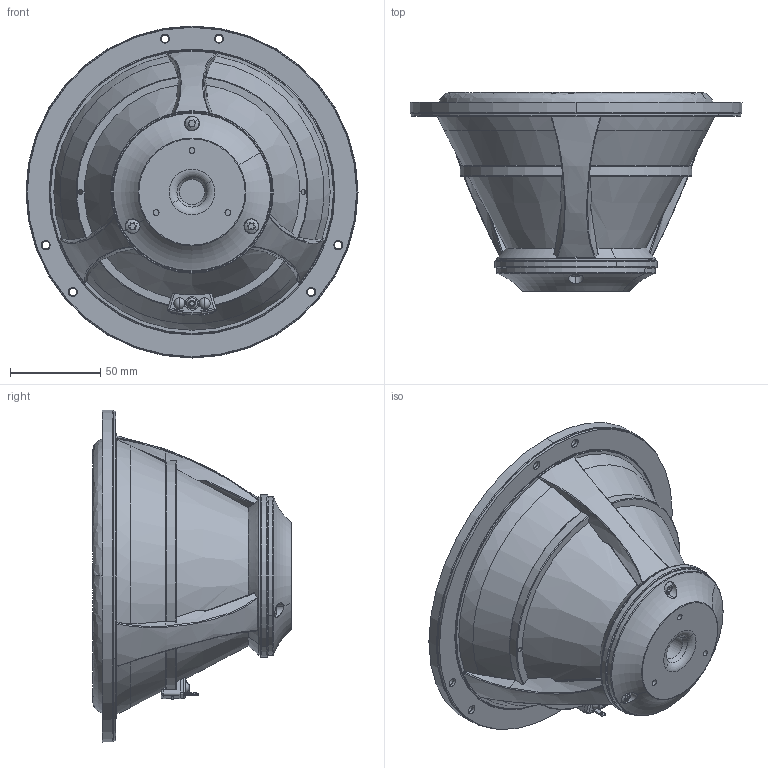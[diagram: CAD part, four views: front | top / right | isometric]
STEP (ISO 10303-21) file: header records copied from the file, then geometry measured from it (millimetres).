
FILE_DESCRIPTION (( 'STEP AP214' ), '1' );
FILE_NAME ('18WU-8741T00.STEP', '2020-11-09T11:49:18', ( '' ), ( '' ), 'SwSTEP 2.0', 'SolidWorks 2019', '' );
FILE_SCHEMA (( 'AUTOMOTIVE_DESIGN' ));
Length unit declared in the file: millimetre
Products named in the file (1): 18WU-8741T00
Bounding box: 184 x 110.25 x 184 mm (x, y, z)
Volume: 1004491.2 mm3; surface area: 160214 mm2
Topology: 1 solids, 19 shells, 898 faces, 2532 edges, 1619 vertices
Faces by surface type: bspline 218, cylinder 201, cone 167, torus 146, plane 142, sphere 24
Entity records: 63554 total; most frequent: CARTESIAN_POINT 32961, ORIENTED_EDGE 5056, DIRECTION 4005, EDGE_CURVE 2528, AXIS2_PLACEMENT_3D 1792, VERTEX_POINT 1619, CIRCLE 1111, B_SPLINE_CURVE_WITH_KNOTS 976
